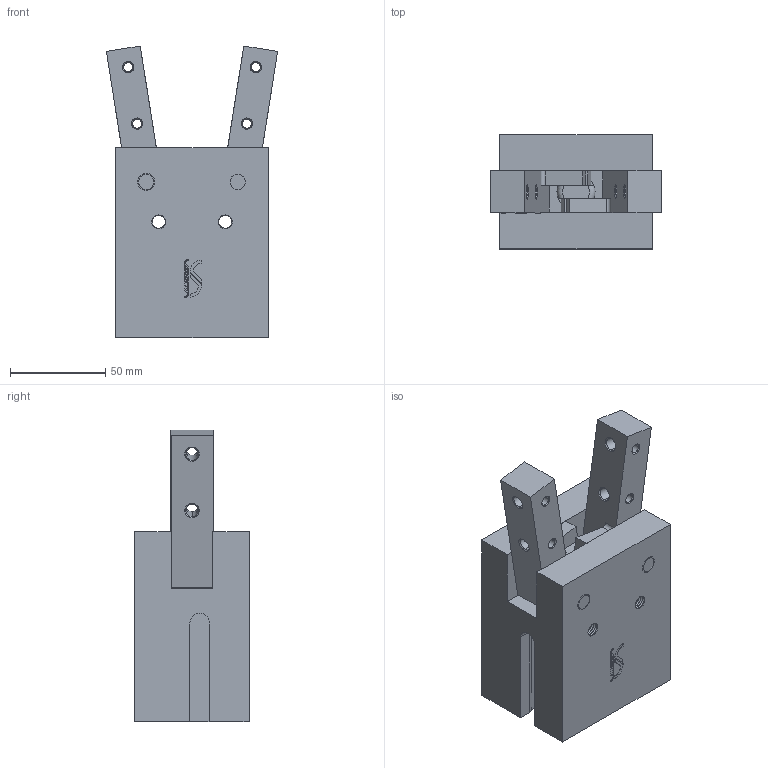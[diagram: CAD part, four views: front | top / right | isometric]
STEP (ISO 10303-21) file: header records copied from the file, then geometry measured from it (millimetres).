
FILE_DESCRIPTION (( 'STEP AP214' ), '1' );
FILE_NAME ('3D MHM Ø 50.STEP', '2015-05-11T06:45:08', ( '' ), ( '' ), 'SwSTEP 2.0', 'SolidWorks 2014', '' );
FILE_SCHEMA (( 'AUTOMOTIVE_DESIGN' ));
Length unit declared in the file: millimetre
Products named in the file (8): MH ﾘ 50 JAW; PISTON ROD MHM ﾘ 50; BODY MHM ﾘ 50; 3D MHM ﾘ 50
Assembly tree (4 placements, depth 2):
  MH ﾘ 50 JAW
  MH ﾘ 50 JAW
  BODY MHM ﾘ 50
  PISTON ROD MHM ﾘ 50
  3D MHM ﾘ 50
    BODY MHM ﾘ 50
    PISTON ROD MHM ﾘ 50
    MH ﾘ 50 JAW  x2
Bounding box: 89.97 x 60 x 153.38 mm (x, y, z)
Volume: 452510.8 mm3; surface area: 95643 mm2
Topology: 4 solids, 4 shells, 739 faces, 1663 edges, 950 vertices
Faces by surface type: cone 471, plane 170, cylinder 96, torus 2
Entity records: 20563 total; most frequent: DIRECTION 3512, CARTESIAN_POINT 3382, ORIENTED_EDGE 3056, EDGE_CURVE 1528, AXIS2_PLACEMENT_3D 1302, LINE 908, VECTOR 908, VERTEX_POINT 872
